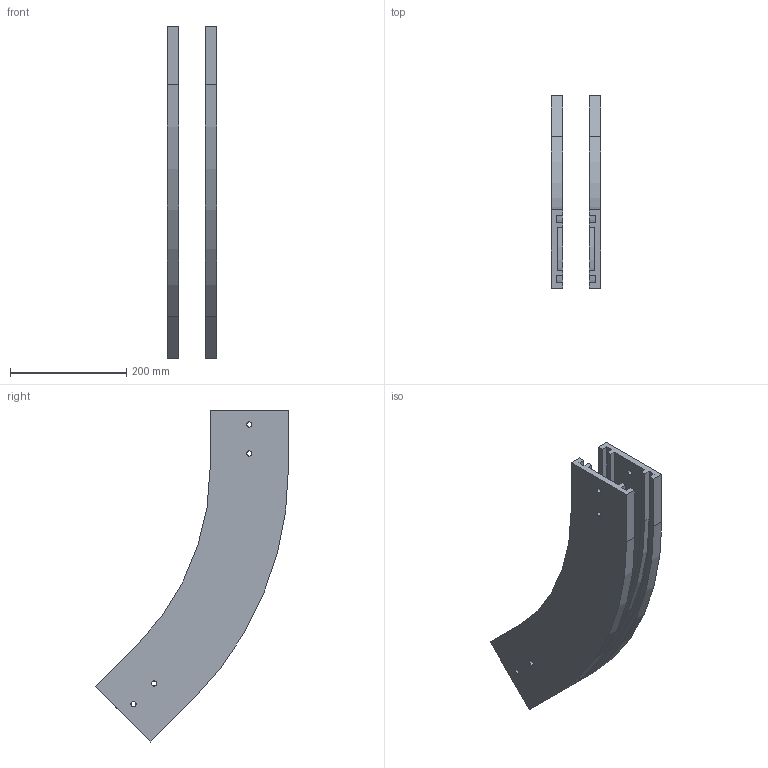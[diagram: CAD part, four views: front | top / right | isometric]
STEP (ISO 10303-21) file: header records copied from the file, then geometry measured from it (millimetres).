
FILE_DESCRIPTION (( 'STEP AP203' ), '1' );
FILE_NAME ('R2CV500-45.STEP', '2008-12-02T09:20:44', ( 'faber' ), ( '' ), 'SwSTEP 2.0', 'SolidWorks 2008', '' );
FILE_SCHEMA (( 'CONFIG_CONTROL_DESIGN' ));
Length unit declared in the file: millimetre
Products named in the file (1): R2CV500-45
Bounding box: 86 x 332.39 x 571.99 mm (x, y, z)
Volume: 2092556.4 mm3; surface area: 449518.4 mm2
Topology: 2 solids, 2 shells, 84 faces, 240 edges, 160 vertices
Faces by surface type: plane 52, cylinder 32
Entity records: 2855 total; most frequent: CARTESIAN_POINT 485, ORIENTED_EDGE 480, DIRECTION 474, EDGE_CURVE 240, LINE 176, VECTOR 176, VERTEX_POINT 160, AXIS2_PLACEMENT_3D 149
